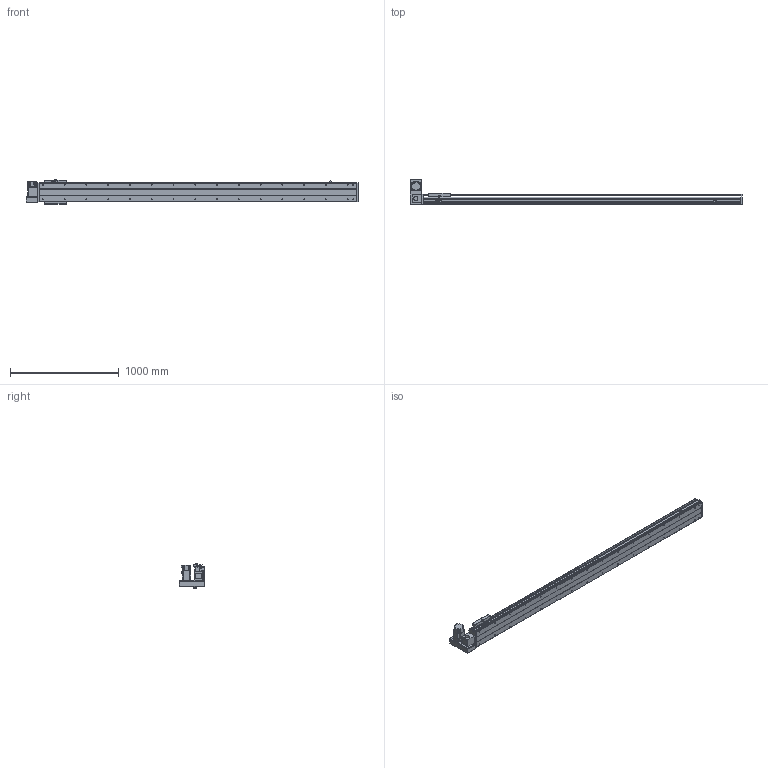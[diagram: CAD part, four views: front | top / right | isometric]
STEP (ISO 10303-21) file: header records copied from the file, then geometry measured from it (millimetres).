
FILE_DESCRIPTION(/* description */ ('STEP AP214'),/* implementation_level */ '2;1');
FILE_NAME(/* name */ 'PBS200-P40-S2550-LU-T75-C1-N(0)',/* time_stamp */ '2022-06-11T09:04:23+02:00',/* author */ ('License CC BY-ND 4.0'),/* organization */ ('CADENAS'),/* preprocessor_version */ 'ST-DEVELOPER v18.102',/* originating_system */ 'PARTsolutions',/* authorisation */ ' ');
FILE_SCHEMA (('AUTOMOTIVE_DESIGN {1 0 10303 214 3 1 1}'));
Length unit declared in the file: millimetre
Products named in the file (7): PBS200-P40-S2550-LU-T75-C1-N(0); PBS200_sensor; PBS200_plant; PBS200_sliser; T75-p1; PBS200T-LU_motors; PBS200-S2550()_body
Assembly tree (8 placements, depth 2):
  PBS200-P40-S2550-LU-T75-C1-N(0)
    PBS200_sensor  x3
    PBS200_plant
    PBS200_sliser
    T75-p1
    PBS200T-LU_motors
    PBS200-S2550()_body
Bounding box: 3050 x 231 x 221 mm (x, y, z)
Volume: 20915744.8 mm3; surface area: 3345806.8 mm2
Topology: 8 solids, 8 shells, 968 faces, 2454 edges, 1596 vertices
Faces by surface type: plane 590, cylinder 314, cone 64
Full cylindrical faces by diameter (mm): 2.459 x6, 3.242 x4, 4.5 x6, 4.917 x4, 5 x6, 6 x7, 6.6 x8, 6.647 x36, 8 x6, 10 x4, 12 x8, 38 x2, 40 x1, 70 x1
Entity records: 25541 total; most frequent: DIRECTION 4519, CARTESIAN_POINT 4336, ORIENTED_EDGE 4078, EDGE_CURVE 2039, AXIS2_PLACEMENT_3D 1603, VERTEX_POINT 1420, LINE 1313, VECTOR 1313
